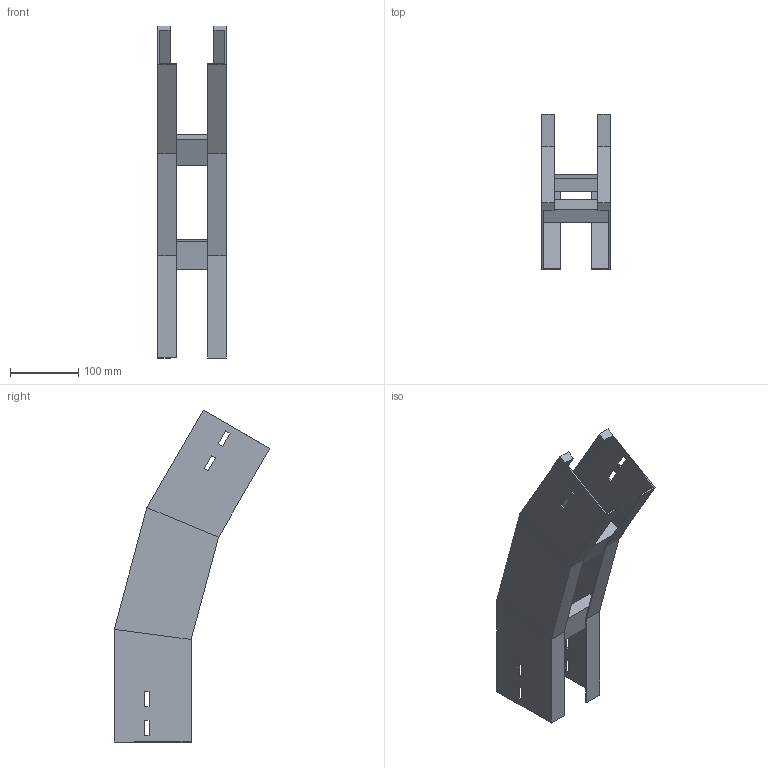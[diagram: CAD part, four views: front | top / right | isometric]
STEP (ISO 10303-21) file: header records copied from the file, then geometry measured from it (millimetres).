
FILE_DESCRIPTION (( 'STEP AP214' ), '1' );
FILE_NAME ('A2_35B3J100.step', '2025-02-21T14:47:46', ( '' ), ( '' ), 'SwSTEP 2.0', 'SolidWorks 2023', '' );
FILE_SCHEMA (( 'AUTOMOTIVE_DESIGN' ));
Length unit declared in the file: millimetre
Products named in the file (3): LONGH.DISCESA_30°_H112.5_R300; A2_35B3J100; TRAVERSINO_100
Assembly tree (5 placements, depth 2):
  A2_35B3J100
    LONGH.DISCESA_30°_H112.5_R300  x2
    TRAVERSINO_100  x3
Bounding box: 100 x 227.62 x 485.87 mm (x, y, z)
Volume: 690704.7 mm3; surface area: 340258.8 mm2
Topology: 5 solids, 5 shells, 102 faces, 244 edges, 152 vertices
Faces by surface type: plane 102
Entity records: 1480 total; most frequent: CARTESIAN_POINT 244, ORIENTED_EDGE 232, DIRECTION 228, EDGE_CURVE 116, LINE 116, VECTOR 116, VERTEX_POINT 72, EDGE_LOOP 56
